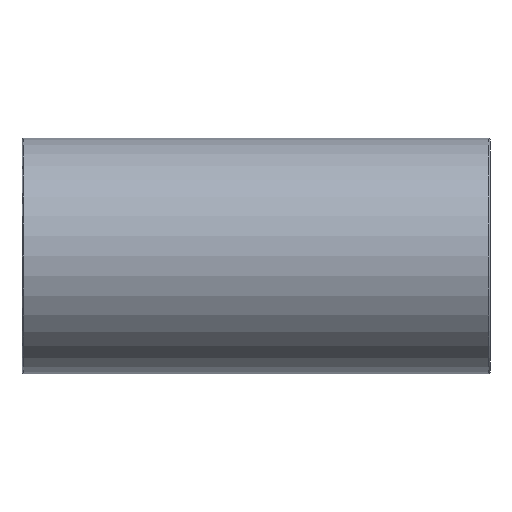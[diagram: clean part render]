
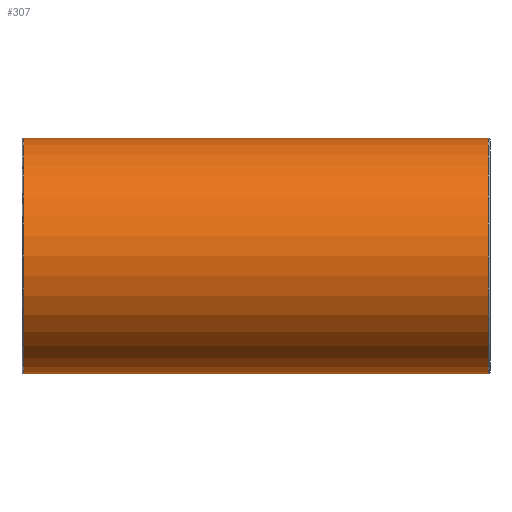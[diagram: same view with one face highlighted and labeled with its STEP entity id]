
A CAD part, front view. The second image highlights one B-rep face of the part: STEP entity #307.
In plain terms, the highlighted cylindrical face has radius 31 mm (diameter 62 mm), a full revolution.
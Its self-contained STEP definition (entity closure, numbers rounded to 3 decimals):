
#21=B_SPLINE_CURVE_WITH_KNOTS('',3,(#503,#504,#505,#506,#507,#508,#509,
#510,#511,#512,#513,#514,#515,#516,#517,#518,#519,#520,#521,#522,#523,#524,
#525,#526,#527,#528,#529,#530,#531,#532,#533,#534,#535,#536,#537,#538,#539,
#540,#541,#542,#543,#544,#545,#546,#547,#548,#549,#550,#551,#552,#553,#554,
#555,#556,#557,#558,#559,#560,#561,#562,#563,#564,#565,#566,#567,#568,#569,
#570,#571,#572,#573,#574,#575,#576),.UNSPECIFIED.,.T.,.F.,(4,2,2,2,2,2,
2,2,2,2,2,2,2,2,2,2,2,2,2,2,2,2,2,2,2,2,2,2,2,2,2,2,2,2,2,2,4),(0.,0.351,
0.703,1.406,2.108,2.811,3.432,
4.054,4.675,5.296,5.918,6.539,
7.16,7.782,8.485,9.187,9.89,
10.241,10.593,10.944,11.296,11.998,
12.701,13.404,14.025,14.647,15.268,
15.889,16.511,17.132,17.753,18.375,
19.077,19.78,20.483,20.834,21.186),
 .UNSPECIFIED.);
#22=FACE_BOUND('',#90,.T.);
#23=FACE_BOUND('',#91,.T.);
#39=CIRCLE('',#333,31.);
#40=CIRCLE('',#334,31.);
#54=CYLINDRICAL_SURFACE('',#332,31.);
#66=FACE_OUTER_BOUND('',#89,.T.);
#89=EDGE_LOOP('',(#250));
#90=EDGE_LOOP('',(#251));
#91=EDGE_LOOP('',(#252));
#170=VERTEX_POINT('',#498);
#171=VERTEX_POINT('',#500);
#172=VERTEX_POINT('',#502);
#204=EDGE_CURVE('',#170,#170,#39,.T.);
#205=EDGE_CURVE('',#171,#171,#40,.T.);
#206=EDGE_CURVE('',#172,#172,#21,.T.);
#250=ORIENTED_EDGE('',*,*,#204,.F.);
#251=ORIENTED_EDGE('',*,*,#205,.F.);
#252=ORIENTED_EDGE('',*,*,#206,.F.);
#307=ADVANCED_FACE('',(#66,#22,#23),#54,.T.);
#332=AXIS2_PLACEMENT_3D('',#497,#397,#398);
#333=AXIS2_PLACEMENT_3D('',#499,#399,#400);
#334=AXIS2_PLACEMENT_3D('',#501,#401,#402);
#397=DIRECTION('center_axis',(1.,0.,0.));
#398=DIRECTION('ref_axis',(0.,1.,0.));
#399=DIRECTION('center_axis',(-1.,0.,0.));
#400=DIRECTION('ref_axis',(0.,-1.,0.));
#401=DIRECTION('center_axis',(1.,0.,0.));
#402=DIRECTION('ref_axis',(0.,-1.,0.));
#497=CARTESIAN_POINT('Origin',(0.,0.,
0.));
#498=CARTESIAN_POINT('',(-61.052,31.,0.));
#499=CARTESIAN_POINT('Origin',(-61.052,0.,0.));
#500=CARTESIAN_POINT('',(61.052,31.,0.));
#501=CARTESIAN_POINT('Origin',(61.052,0.,0.));
#502=CARTESIAN_POINT('',(0.,8.714,29.75));
#503=CARTESIAN_POINT('Ctrl Pts',(0.,8.714,
29.75));
#504=CARTESIAN_POINT('Ctrl Pts',(1.171,8.714,29.75));
#505=CARTESIAN_POINT('Ctrl Pts',(2.247,8.922,29.69));
#506=CARTESIAN_POINT('Ctrl Pts',(4.296,9.575,29.486));
#507=CARTESIAN_POINT('Ctrl Pts',(5.27,10.019,29.341));
#508=CARTESIAN_POINT('Ctrl Pts',(8.123,11.555,28.787));
#509=CARTESIAN_POINT('Ctrl Pts',(9.934,12.839,28.258));
#510=CARTESIAN_POINT('Ctrl Pts',(13.496,15.577,26.846));
#511=CARTESIAN_POINT('Ctrl Pts',(15.225,17.028,25.965));
#512=CARTESIAN_POINT('Ctrl Pts',(18.507,19.868,23.862));
#513=CARTESIAN_POINT('Ctrl Pts',(20.057,21.259,22.639));
#514=CARTESIAN_POINT('Ctrl Pts',(22.714,23.678,20.077));
#515=CARTESIAN_POINT('Ctrl Pts',(23.931,24.803,18.689));
#516=CARTESIAN_POINT('Ctrl Pts',(26.142,26.863,15.584));
#517=CARTESIAN_POINT('Ctrl Pts',(27.137,27.798,13.866));
#518=CARTESIAN_POINT('Ctrl Pts',(28.778,29.347,10.185));
#519=CARTESIAN_POINT('Ctrl Pts',(29.427,29.963,8.218));
#520=CARTESIAN_POINT('Ctrl Pts',(30.297,30.789,4.161));
#521=CARTESIAN_POINT('Ctrl Pts',(30.518,31.,2.071));
#522=CARTESIAN_POINT('Ctrl Pts',(30.518,31.,-2.071));
#523=CARTESIAN_POINT('Ctrl Pts',(30.297,30.789,-4.161));
#524=CARTESIAN_POINT('Ctrl Pts',(29.427,29.963,-8.218));
#525=CARTESIAN_POINT('Ctrl Pts',(28.778,29.347,-10.185));
#526=CARTESIAN_POINT('Ctrl Pts',(27.137,27.798,-13.866));
#527=CARTESIAN_POINT('Ctrl Pts',(26.142,26.863,-15.584));
#528=CARTESIAN_POINT('Ctrl Pts',(23.931,24.803,-18.689));
#529=CARTESIAN_POINT('Ctrl Pts',(22.714,23.678,-20.077));
#530=CARTESIAN_POINT('Ctrl Pts',(20.057,21.259,-22.639));
#531=CARTESIAN_POINT('Ctrl Pts',(18.507,19.868,-23.862));
#532=CARTESIAN_POINT('Ctrl Pts',(15.225,17.028,-25.965));
#533=CARTESIAN_POINT('Ctrl Pts',(13.496,15.577,-26.846));
#534=CARTESIAN_POINT('Ctrl Pts',(9.934,12.839,-28.258));
#535=CARTESIAN_POINT('Ctrl Pts',(8.123,11.555,-28.787));
#536=CARTESIAN_POINT('Ctrl Pts',(5.27,10.019,-29.341));
#537=CARTESIAN_POINT('Ctrl Pts',(4.296,9.575,-29.486));
#538=CARTESIAN_POINT('Ctrl Pts',(2.247,8.922,-29.69));
#539=CARTESIAN_POINT('Ctrl Pts',(1.171,8.714,-29.75));
#540=CARTESIAN_POINT('Ctrl Pts',(-1.171,8.714,-29.75));
#541=CARTESIAN_POINT('Ctrl Pts',(-2.247,8.922,-29.69));
#542=CARTESIAN_POINT('Ctrl Pts',(-4.296,9.575,-29.486));
#543=CARTESIAN_POINT('Ctrl Pts',(-5.27,10.019,-29.341));
#544=CARTESIAN_POINT('Ctrl Pts',(-8.123,11.555,-28.787));
#545=CARTESIAN_POINT('Ctrl Pts',(-9.934,12.839,-28.258));
#546=CARTESIAN_POINT('Ctrl Pts',(-13.496,15.577,-26.846));
#547=CARTESIAN_POINT('Ctrl Pts',(-15.225,17.028,-25.965));
#548=CARTESIAN_POINT('Ctrl Pts',(-18.507,19.868,-23.862));
#549=CARTESIAN_POINT('Ctrl Pts',(-20.057,21.259,-22.639));
#550=CARTESIAN_POINT('Ctrl Pts',(-22.714,23.678,-20.077));
#551=CARTESIAN_POINT('Ctrl Pts',(-23.931,24.803,-18.689));
#552=CARTESIAN_POINT('Ctrl Pts',(-26.142,26.863,-15.584));
#553=CARTESIAN_POINT('Ctrl Pts',(-27.137,27.798,-13.866));
#554=CARTESIAN_POINT('Ctrl Pts',(-28.778,29.347,-10.185));
#555=CARTESIAN_POINT('Ctrl Pts',(-29.427,29.963,-8.218));
#556=CARTESIAN_POINT('Ctrl Pts',(-30.297,30.789,-4.161));
#557=CARTESIAN_POINT('Ctrl Pts',(-30.518,31.,-2.071));
#558=CARTESIAN_POINT('Ctrl Pts',(-30.518,31.,2.071));
#559=CARTESIAN_POINT('Ctrl Pts',(-30.297,30.789,4.161));
#560=CARTESIAN_POINT('Ctrl Pts',(-29.427,29.963,8.218));
#561=CARTESIAN_POINT('Ctrl Pts',(-28.778,29.347,10.185));
#562=CARTESIAN_POINT('Ctrl Pts',(-27.137,27.798,13.866));
#563=CARTESIAN_POINT('Ctrl Pts',(-26.142,26.863,15.584));
#564=CARTESIAN_POINT('Ctrl Pts',(-23.931,24.803,18.689));
#565=CARTESIAN_POINT('Ctrl Pts',(-22.714,23.678,20.077));
#566=CARTESIAN_POINT('Ctrl Pts',(-20.057,21.259,22.639));
#567=CARTESIAN_POINT('Ctrl Pts',(-18.507,19.868,23.862));
#568=CARTESIAN_POINT('Ctrl Pts',(-15.225,17.028,25.965));
#569=CARTESIAN_POINT('Ctrl Pts',(-13.496,15.577,26.846));
#570=CARTESIAN_POINT('Ctrl Pts',(-9.934,12.839,28.258));
#571=CARTESIAN_POINT('Ctrl Pts',(-8.123,11.555,28.787));
#572=CARTESIAN_POINT('Ctrl Pts',(-5.27,10.019,29.341));
#573=CARTESIAN_POINT('Ctrl Pts',(-4.296,9.575,29.486));
#574=CARTESIAN_POINT('Ctrl Pts',(-2.247,8.922,29.69));
#575=CARTESIAN_POINT('Ctrl Pts',(-1.171,8.714,29.75));
#576=CARTESIAN_POINT('Ctrl Pts',(0.,8.714,
29.75));
